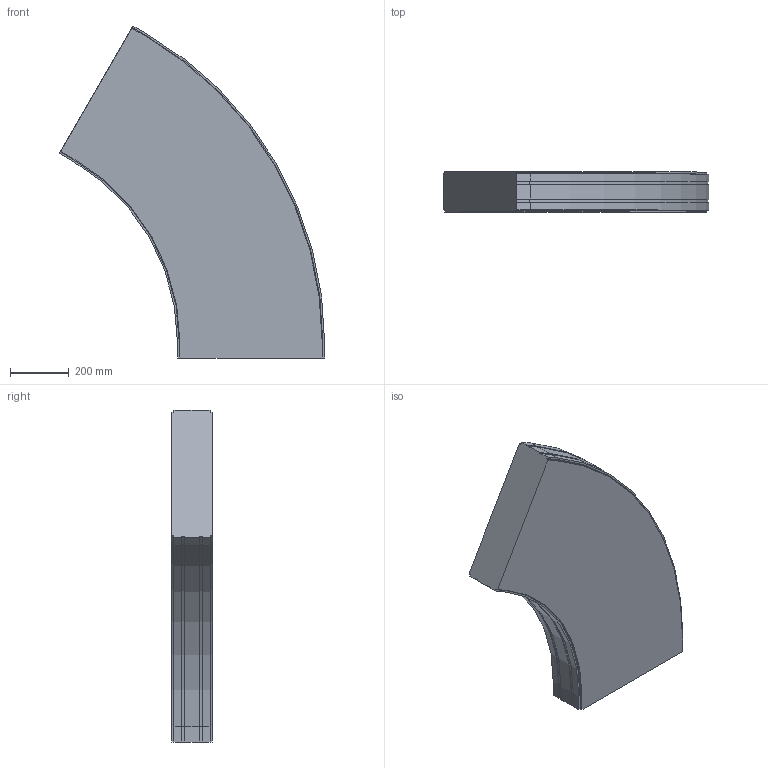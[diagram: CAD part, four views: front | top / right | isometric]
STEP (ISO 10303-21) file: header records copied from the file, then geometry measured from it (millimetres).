
FILE_DESCRIPTION (( 'STEP AP214' ), '1' );
FILE_NAME ('FS-MTC2-150-INOX horizontaalbocht.500 60°.STEP', '2017-02-08T12:40:40', ( '' ), ( '' ), 'SwSTEP 2.0', 'SolidWorks 2016', '' );
FILE_SCHEMA (( 'AUTOMOTIVE_DESIGN' ));
Length unit declared in the file: millimetre
Products named in the file (1): FS-MTC2-150-INOX horizontaalbocht.500 60°
Bounding box: 899.72 x 136.5 x 1126.21 mm (x, y, z)
Volume: 75284878.9 mm3; surface area: 1569020.4 mm2
Topology: 1 solids, 1 shells, 74 faces, 216 edges, 144 vertices
Faces by surface type: plane 56, cylinder 18
Entity records: 2470 total; most frequent: CARTESIAN_POINT 435, ORIENTED_EDGE 432, DIRECTION 402, EDGE_CURVE 216, LINE 180, VECTOR 180, VERTEX_POINT 144, AXIS2_PLACEMENT_3D 111
